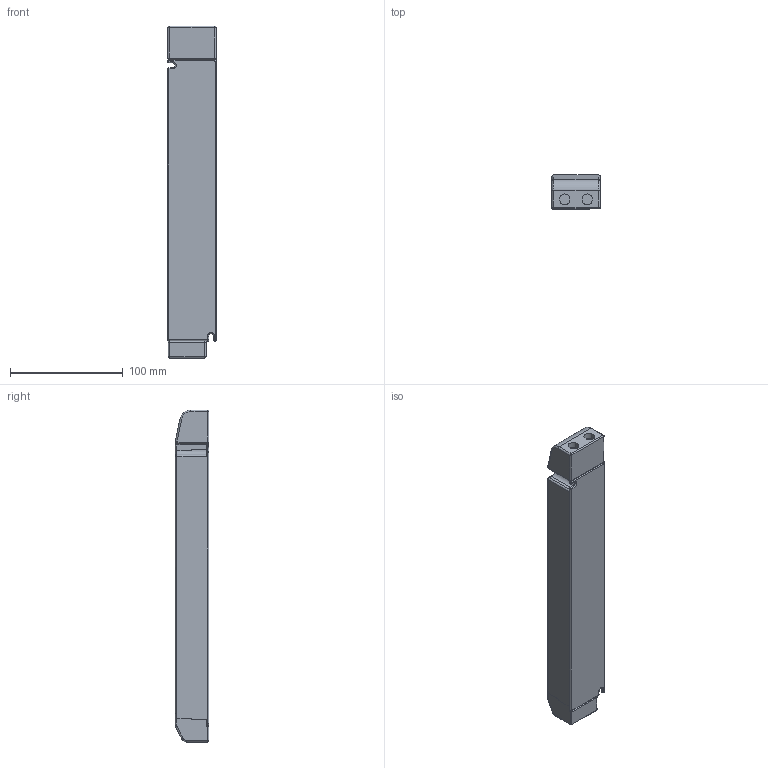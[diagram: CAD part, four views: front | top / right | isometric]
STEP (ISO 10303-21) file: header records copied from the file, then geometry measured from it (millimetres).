
FILE_DESCRIPTION((''),'2;1');
FILE_NAME('15009746Z_FLEX_DMEC_250','2017-11-24T',('Emanuel.Wild'),(''),'PRO/ENGINEER BY PARAMETRIC TECHNOLOGY CORPORATION, 2015200','PRO/ENGINEER BY PARAMETRIC TECHNOLOGY CORPORATION, 2015200','');
FILE_SCHEMA(('AUTOMOTIVE_DESIGN { 1 0 10303 214 1 1 1 1 }'));
Length unit declared in the file: millimetre
Products named in the file (6): DEWI_SC7_DMEC_250X43X30; DEWI_SR-MINI_DMEC; DEWI_SR-MINI_DMEC-ASSY_250; DEWI_SR-STD_DMEC; DEWI_SR-STD_DMEC_ASSY_250; 15009746Z_FLEX_DMEC_250
Assembly tree (5 placements, depth 3):
  15009746Z_FLEX_DMEC_250
    DEWI_SC7_DMEC_250X43X30
    DEWI_SR-MINI_DMEC-ASSY_250
      DEWI_SR-MINI_DMEC
    DEWI_SR-STD_DMEC_ASSY_250
      DEWI_SR-STD_DMEC
Bounding box: 43 x 29.8 x 295 mm (x, y, z)
Volume: 344114.7 mm3; surface area: 57728.6 mm2
Topology: 3 solids, 3 shells, 522 faces, 1426 edges, 904 vertices
Faces by surface type: plane 323, cylinder 146, cone 16, torus 13, sphere 12, bspline 12
Entity records: 18533 total; most frequent: CARTESIAN_POINT 3410, ORIENTED_EDGE 2820, DIRECTION 2716, EDGE_CURVE 1410, VECTOR 1038, LINE 1038, VERTEX_POINT 904, AXIS2_PLACEMENT_3D 839
